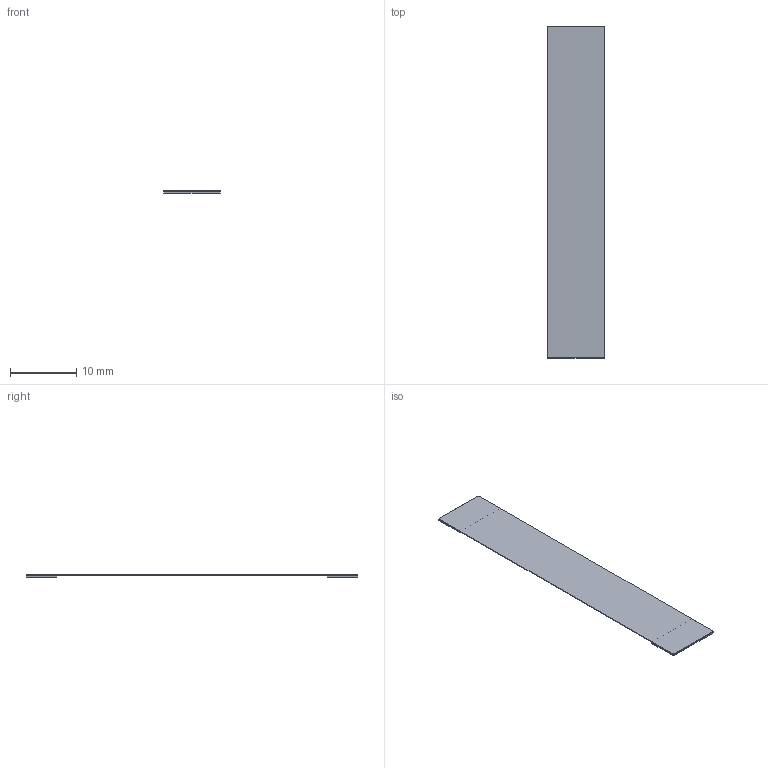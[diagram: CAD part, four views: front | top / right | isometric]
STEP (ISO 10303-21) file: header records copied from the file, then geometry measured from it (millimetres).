
FILE_DESCRIPTION(('Designed by EasyEDA Pro'),'2;1');
FILE_NAME('Open CASCADE Shape Model','2026-05-18T08:29:25',('Author'),( 'Open CASCADE'),'Open CASCADE STEP processor 7.8','Open CASCADE 7.8' ,'Unknown');
FILE_SCHEMA(('AUTOMOTIVE_DESIGN { 1 0 10303 214 1 1 1 1 }'));
Length unit declared in the file: millimetre
Products named in the file (8): EasyEDA PCB Model~q5gj; Board~q5gj; TopCopper~q5gj; BottomCopper~q5gj; TopSilkscreen~q5gj; BottomSilkscreen~q5gj; TopFpcStiffener~q5gj; BottomFpcStiffener~q5gj
Assembly tree (7 placements, depth 2):
  EasyEDA PCB Model~q5gj
    Board~q5gj
    TopCopper~q5gj
    BottomCopper~q5gj
    TopSilkscreen~q5gj
    BottomSilkscreen~q5gj
    TopFpcStiffener~q5gj
    BottomFpcStiffener~q5gj
Bounding box: 8.5 x 50 x 0.3 mm (x, y, z)
Volume: 59.2 mm3; surface area: 1025.9 mm2
Topology: 3 solids, 3 shells, 23 faces, 51 edges, 34 vertices
Faces by surface type: plane 19, cylinder 4
Entity records: 860 total; most frequent: DIRECTION 121, CARTESIAN_POINT 116, ORIENTED_EDGE 102, EDGE_CURVE 51, LINE 43, VECTOR 43, AXIS2_PLACEMENT_3D 39, VERTEX_POINT 34
